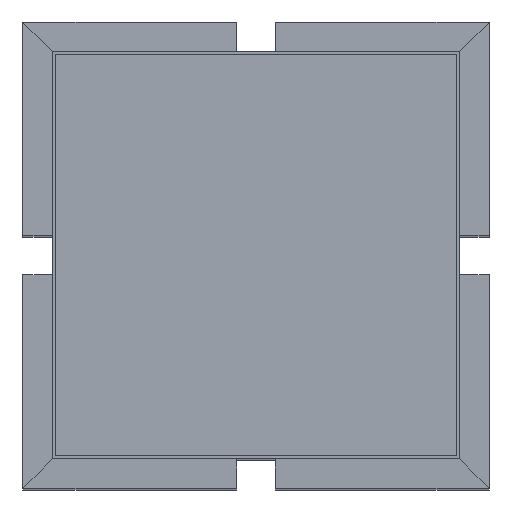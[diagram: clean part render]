
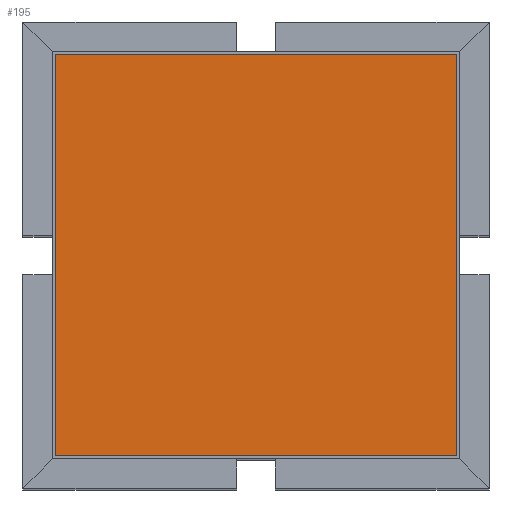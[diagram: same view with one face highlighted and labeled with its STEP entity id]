
A CAD part, top view. The second image highlights one B-rep face of the part: STEP entity #195.
In plain terms, the highlighted planar face has unit normal (0, 0, 1).
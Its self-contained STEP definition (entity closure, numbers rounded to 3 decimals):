
#195=ADVANCED_FACE('',(#297),#1359,.T.);
#297=FACE_OUTER_BOUND('',#399,.T.);
#399=EDGE_LOOP('',(#676,#677,#678,#679));
#676=ORIENTED_EDGE('',*,*,#932,.F.);
#677=ORIENTED_EDGE('',*,*,#942,.F.);
#678=ORIENTED_EDGE('',*,*,#939,.F.);
#679=ORIENTED_EDGE('',*,*,#936,.F.);
#932=EDGE_CURVE('',#1248,#1249,#1108,.T.);
#936=EDGE_CURVE('',#1249,#1252,#1112,.T.);
#939=EDGE_CURVE('',#1252,#1254,#1115,.T.);
#942=EDGE_CURVE('',#1254,#1248,#1118,.T.);
#1108=B_SPLINE_CURVE_WITH_KNOTS('',1,(#2160,#2161),.UNSPECIFIED.,.F.,.F.,
(2,2),(0.,258.),.UNSPECIFIED.);
#1112=B_SPLINE_CURVE_WITH_KNOTS('',1,(#2168,#2169),.UNSPECIFIED.,.F.,.F.,
(2,2),(0.,258.),.UNSPECIFIED.);
#1115=B_SPLINE_CURVE_WITH_KNOTS('',1,(#2174,#2175),.UNSPECIFIED.,.F.,.F.,
(2,2),(0.,258.),.UNSPECIFIED.);
#1118=B_SPLINE_CURVE_WITH_KNOTS('',1,(#2180,#2181),.UNSPECIFIED.,.F.,.F.,
(2,2),(0.,258.),.UNSPECIFIED.);
#1248=VERTEX_POINT('',#2152);
#1249=VERTEX_POINT('',#2153);
#1252=VERTEX_POINT('',#2156);
#1254=VERTEX_POINT('',#2158);
#1359=PLANE('',#1557);
#1557=AXIS2_PLACEMENT_3D('',#2151,#1710,$);
#1710=DIRECTION('',(0.,0.,1.));
#2151=CARTESIAN_POINT('',(-154.8,154.8,599.));
#2152=CARTESIAN_POINT('',(-129.,-129.,599.));
#2153=CARTESIAN_POINT('',(-129.,129.,599.));
#2156=CARTESIAN_POINT('',(129.,129.,599.));
#2158=CARTESIAN_POINT('',(129.,-129.,599.));
#2160=CARTESIAN_POINT('',(-129.,-129.,599.));
#2161=CARTESIAN_POINT('',(-129.,129.,599.));
#2168=CARTESIAN_POINT('',(-129.,129.,599.));
#2169=CARTESIAN_POINT('',(129.,129.,599.));
#2174=CARTESIAN_POINT('',(129.,129.,599.));
#2175=CARTESIAN_POINT('',(129.,-129.,599.));
#2180=CARTESIAN_POINT('',(129.,-129.,599.));
#2181=CARTESIAN_POINT('',(-129.,-129.,599.));
